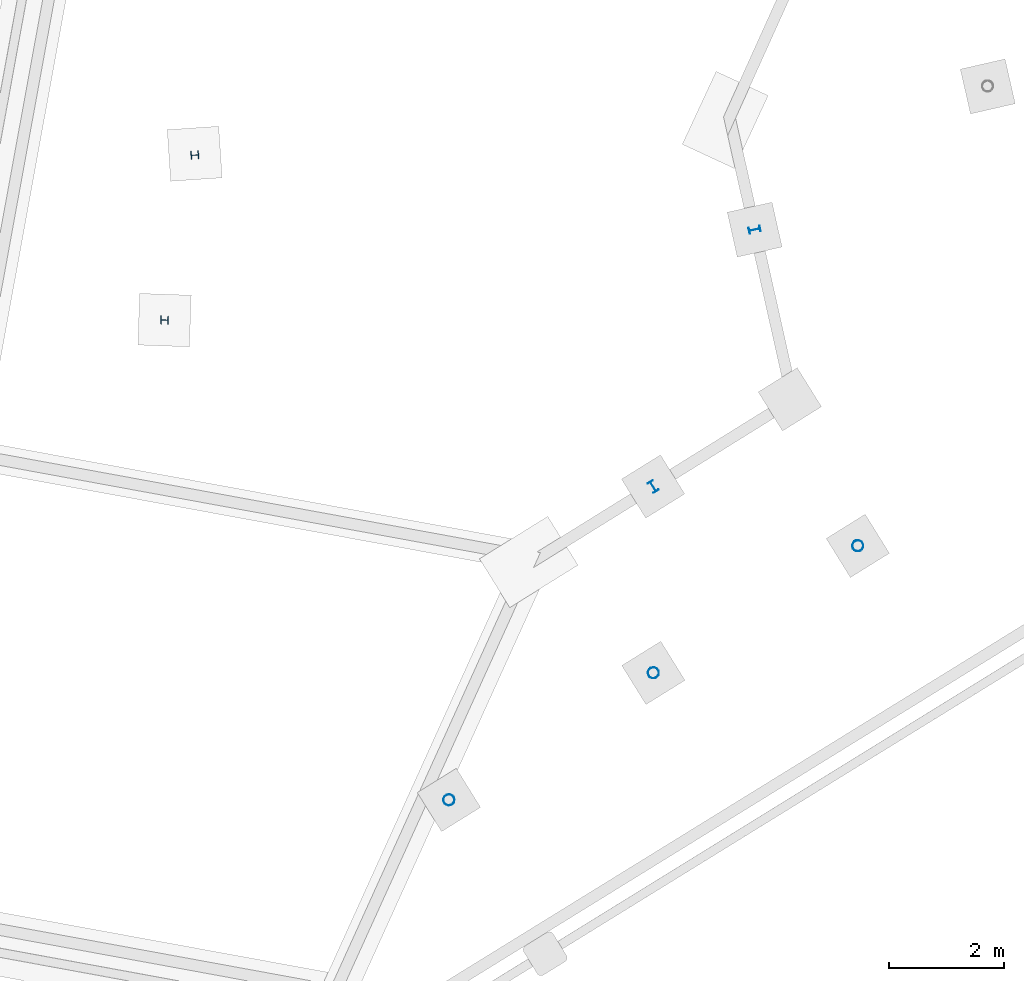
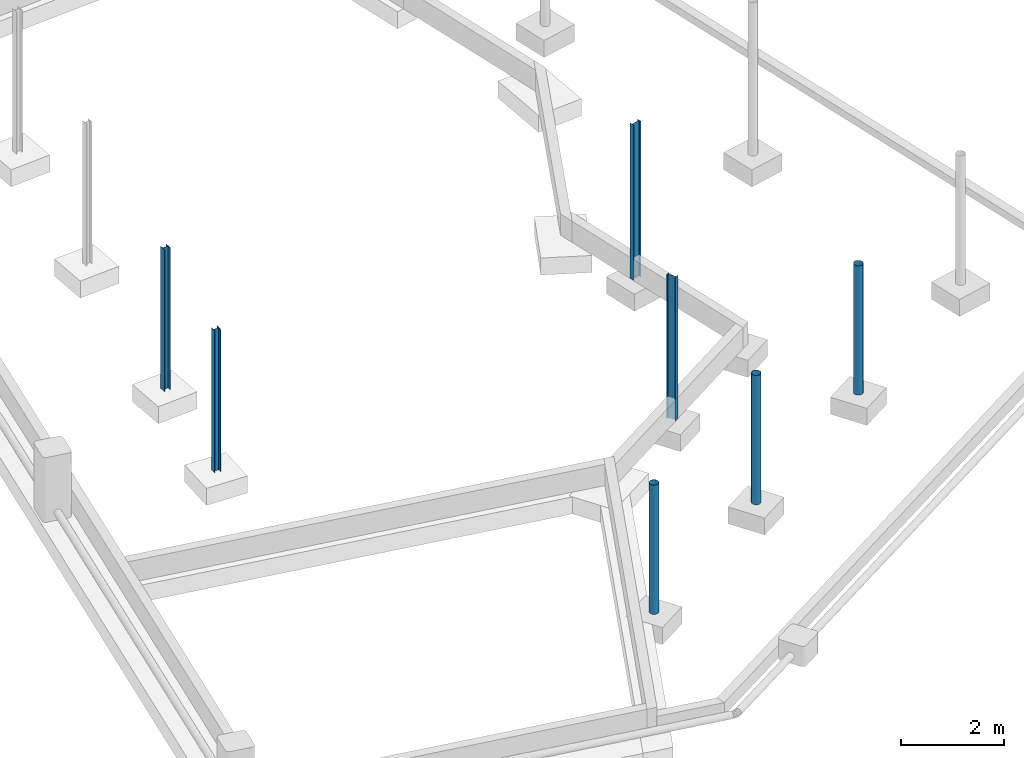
# One storey, part 2 of 17: 7 columns.
"""IFC2X3 building model written with IfcOpenShell, lengths in centimetres."""

from ifc_helpers import new_model, entity, si_unit, converted_unit, derived_unit, direction, frame, frame_2d, origin, origin_2d_with_axis, place, context, subcontext, project, spatial, polyline, circle_curve, parameter, trimmed, segment, composite_curve, hollow_circle, i_section, outline, extrude, source, transform, mapped, material, type_object, type_shapes, element, save


model = new_model("IFC2X3")

# Units and contexts
model_context = context("Model", 3, precision=0.001, world=origin(), true_north=direction((6.12303176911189e-17, 1.0)))
body_context = subcontext(model_context, "Body", "Model", "MODEL_VIEW")
ifc_project = project(units=[si_unit("LENGTHUNIT", "METRE", prefix="CENTI"), si_unit("AREAUNIT", "SQUARE_METRE"), si_unit("VOLUMEUNIT", "CUBIC_METRE"), converted_unit("PLANEANGLEUNIT", "DEGREE", entity("IfcRatioMeasure", 0.0174532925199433), si_unit("PLANEANGLEUNIT", "RADIAN"), dimensions=[0, 0, 0, 0, 0, 0, 0]), si_unit("MASSUNIT", "GRAM", prefix="KILO"), derived_unit("MASSDENSITYUNIT", [(si_unit("MASSUNIT", "GRAM", prefix="KILO"), 1), (si_unit("LENGTHUNIT", "METRE"), -3)]), si_unit("TIMEUNIT", "SECOND"), si_unit("FREQUENCYUNIT", "HERTZ"), si_unit("THERMODYNAMICTEMPERATUREUNIT", "DEGREE_CELSIUS"), derived_unit("THERMALTRANSMITTANCEUNIT", [(si_unit("MASSUNIT", "GRAM", prefix="KILO"), 1), (si_unit("THERMODYNAMICTEMPERATUREUNIT", "KELVIN"), -1), (si_unit("TIMEUNIT", "SECOND"), -3)]), derived_unit("VOLUMETRICFLOWRATEUNIT", [(si_unit("LENGTHUNIT", "METRE"), 3), (si_unit("TIMEUNIT", "SECOND"), -1)]), si_unit("ELECTRICCURRENTUNIT", "AMPERE"), si_unit("ELECTRICVOLTAGEUNIT", "VOLT"), si_unit("POWERUNIT", "WATT"), si_unit("FORCEUNIT", "NEWTON", prefix="KILO"), si_unit("ILLUMINANCEUNIT", "LUX"), si_unit("LUMINOUSFLUXUNIT", "LUMEN"), si_unit("LUMINOUSINTENSITYUNIT", "CANDELA"), derived_unit("USERDEFINED", [(si_unit("MASSUNIT", "GRAM", prefix="KILO"), -1), (si_unit("LENGTHUNIT", "METRE"), -2), (si_unit("TIMEUNIT", "SECOND"), 3), (si_unit("LUMINOUSFLUXUNIT", "LUMEN"), 1)]), derived_unit("LINEARVELOCITYUNIT", [(si_unit("LENGTHUNIT", "METRE"), 1), (si_unit("TIMEUNIT", "SECOND"), -1)]), si_unit("PRESSUREUNIT", "PASCAL"), derived_unit("USERDEFINED", [(si_unit("LENGTHUNIT", "METRE"), -2), (si_unit("MASSUNIT", "GRAM", prefix="KILO"), 1), (si_unit("TIMEUNIT", "SECOND"), -2)])], contexts=[model_context])

# Site, building, storey
site_placement = place(None, frame((2611.71187422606, 13650.4058644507, 0.0), z_axis=(0.0, 0.0, 1.0), x_axis=(0.0673222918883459, -0.997731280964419, 0.0)))
site = spatial("IfcSite", under=ifc_project, at=site_placement, Name="Surface", CompositionType="ELEMENT")
building_placement = place(site_placement, origin())
building = spatial("IfcBuilding", under=site, at=building_placement, CompositionType="ELEMENT")
storey_placement = place(building_placement, frame((0.0, 0.0, 86950.0)))
storey = spatial("IfcBuildingStorey", under=building, at=storey_placement, Name="-1 Soubassement", CompositionType="ELEMENT", Elevation=86950.0)

# Columns
ifc_material = material(Name="Acier structurel - S235")
column_type_1 = type_object("IfcColumnType", Name="Poteau rond 193.7x4 mm", PredefinedType="COLUMN")
shared_shape_1 = source(origin(), body_context, "Body", "SweptSolid", [
    extrude(hollow_circle(Radius=9.685, WallThickness=0.399999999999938, at=frame_2d((-7.14015928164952e-16, -4.16500599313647e-14), x_axis=(1.0, 0.0))), frame((0.0, 0.0, 86950.0)), (0.0, 0.0, 1.0), 304.803782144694),
])
type_shapes(column_type_1, [shared_shape_1])
column_1_placement = place(storey_placement, frame((4497.56424284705, 1166.99466678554, -86950.0), z_axis=(0.0, 0.0, 1.0), x_axis=(0.882947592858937, 0.469471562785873, 0.0)))
element("IfcColumn", 1, at=column_1_placement, inside=storey, type_object=column_type_1, material=ifc_material, Name="Poteau RO (EN 10219-2):Poteau rond 193.7x4 mm", ObjectType="Poteau RO (EN 10219-2):Poteau rond 193.7x4 mm", context=body_context, shape_type="MappedRepresentation", body=[
    mapped(shared_shape_1, transform((0.0, 0.0, 0.0), scale=1.0)),
])
column_type_2 = type_object("IfcColumnType", Name="Poteau rond 193.7x4 mm", PredefinedType="COLUMN")
shared_shape_2 = source(origin(), body_context, "Body", "SweptSolid", [
    extrude(hollow_circle(Radius=9.685, WallThickness=0.399999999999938, at=frame_2d((-7.14015928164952e-16, -4.16500599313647e-14), x_axis=(1.0, 0.0))), frame((0.0, 0.0, 86950.0)), (0.0, 0.0, 1.0), 304.848300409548),
])
type_shapes(column_type_2, [shared_shape_2])
column_2_placement = place(storey_placement, frame((4694.27081837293, 797.043404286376, -86950.0), z_axis=(0.0, 0.0, 1.0), x_axis=(0.882947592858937, 0.469471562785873, 0.0)))
element("IfcColumn", 2, at=column_2_placement, inside=storey, type_object=column_type_2, material=ifc_material, Name="Poteau RO (EN 10219-2):Poteau rond 193.7x4 mm", ObjectType="Poteau RO (EN 10219-2):Poteau rond 193.7x4 mm", context=body_context, shape_type="MappedRepresentation", body=[
    mapped(shared_shape_2, transform((0.0, 0.0, 0.0), scale=1.0)),
])
column_type_3 = type_object("IfcColumnType", Name="Poteau rond 193.7x4 mm", PredefinedType="COLUMN")
shared_shape_3 = source(origin(), body_context, "Body", "SweptSolid", [
    extrude(hollow_circle(Radius=9.685, WallThickness=0.399999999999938, at=frame_2d((-7.14015928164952e-16, -4.16500599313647e-14), x_axis=(1.0, 0.0))), frame((0.0, 0.0, 86950.0)), (0.0, 0.0, 1.0), 304.892818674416),
])
type_shapes(column_type_3, [shared_shape_3])
column_3_placement = place(storey_placement, frame((4890.9773938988, 427.092141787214, -86950.0), z_axis=(0.0, 0.0, 1.0), x_axis=(0.882947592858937, 0.469471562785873, 0.0)))
element("IfcColumn", 3, at=column_3_placement, inside=storey, type_object=column_type_3, material=ifc_material, Name="Poteau RO (EN 10219-2):Poteau rond 193.7x4 mm", ObjectType="Poteau RO (EN 10219-2):Poteau rond 193.7x4 mm", context=body_context, shape_type="MappedRepresentation", body=[
    mapped(shared_shape_3, transform((0.0, 0.0, 0.0), scale=1.0)),
])
column_type_4 = type_object("IfcColumnType", Name="HE140A", PredefinedType="COLUMN")
shared_shape_4 = source(origin(), body_context, "Body", "SweptSolid", [
    extrude(outline(composite_curve([segment(polyline([(5.8, -7.0), (6.65, -7.0)]), True, "CONTINUOUS"), segment(polyline([(6.65, -7.0), (6.65, 7.0)]), True, "CONTINUOUS"), segment(polyline([(6.65, 7.0), (5.8, 7.0)]), True, "CONTINUOUS"), segment(polyline([(5.8, 7.0), (5.8, 1.475)]), True, "CONTINUOUS"), segment(trimmed(circle_curve(frame_2d((4.6, 1.475), x_axis=(1.0, 0.0)), 1.2), [parameter(270.0)], [parameter(0.0)], True, "PARAMETER"), False, "CONTINUOUS"), segment(polyline([(4.6, 0.275000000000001), (-4.6, 0.275000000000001)]), True, "CONTINUOUS"), segment(trimmed(circle_curve(frame_2d((-4.6, 1.475), x_axis=(0.0, -1.0)), 1.2), [parameter(270.0)], [parameter(0.0)], True, "PARAMETER"), False, "CONTINUOUS"), segment(polyline([(-5.8, 1.475), (-5.8, 7.0)]), True, "CONTINUOUS"), segment(polyline([(-5.8, 7.0), (-6.65, 7.0)]), True, "CONTINUOUS"), segment(polyline([(-6.65, 7.0), (-6.65, -7.0)]), True, "CONTINUOUS"), segment(polyline([(-6.65, -7.0), (-5.8, -7.0)]), True, "CONTINUOUS"), segment(polyline([(-5.8, -7.0), (-5.8, -1.475)]), True, "CONTINUOUS"), segment(trimmed(circle_curve(frame_2d((-4.6, -1.475), x_axis=(-1.0, 0.0)), 1.2), [parameter(269.999999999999)], [parameter(0.0)], True, "PARAMETER"), False, "CONTINUOUS"), segment(polyline([(-4.6, -0.274999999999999), (4.6, -0.274999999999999)]), True, "CONTINUOUS"), segment(trimmed(circle_curve(frame_2d((4.6, -1.475), x_axis=(0.0, 1.0)), 1.2), [parameter(270.0)], [parameter(0.0)], True, "PARAMETER"), False, "CONTINUOUS"), segment(polyline([(5.8, -1.475), (5.8, -7.0)]), True, "CONTINUOUS")], self_intersect=False)), frame((0.0, 0.0, 86950.0), z_axis=(0.0, 0.0, 1.0), x_axis=(0.0, -1.0, 0.0)), (0.0, 0.0, 1.0), 334.99999999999),
])
type_shapes(column_type_4, [shared_shape_4])
column_4_placement = place(storey_placement, frame((3741.47284050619, 61.3184408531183, -86950.0)))
element("IfcColumn", 4, at=column_4_placement, inside=storey, type_object=column_type_4, material=ifc_material, Name="H-Poutrelles-Poteau:HE140A", ObjectType="H-Poutrelles-Poteau:HE140A", context=body_context, shape_type="MappedRepresentation", body=[
    mapped(shared_shape_4, transform((0.0, 0.0, 0.0), scale=1.0)),
])
column_5_placement = place(storey_placement, frame((4024.32309652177, -10.5978709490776, -86950.0), z_axis=(0.0, 0.0, 1.0), x_axis=(0.99473320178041, -0.102498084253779, 0.0)))
element("IfcColumn", 5, at=column_5_placement, inside=storey, type_object=column_type_4, material=ifc_material, Name="H-Poutrelles-Poteau:HE140A", ObjectType="H-Poutrelles-Poteau:HE140A", context=body_context, shape_type="MappedRepresentation", body=[
    mapped(shared_shape_4, transform((0.0, 0.0, 0.0), scale=1.0)),
])
column_type_5 = type_object("IfcColumnType", Name="IPE200", PredefinedType="COLUMN")
shared_shape_5 = source(origin(), body_context, "Body", "SweptSolid", [
    extrude(i_section(OverallWidth=10.0, OverallDepth=20.0000000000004, WebThickness=0.559999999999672, FlangeThickness=0.850000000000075, FilletRadius=1.19999999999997, at=origin_2d_with_axis()), frame((4370.57935281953, 818.349487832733, 86950.0), z_axis=(0.0, 0.0, 1.0), x_axis=(-0.469471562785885, 0.88294759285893, 0.0)), (0.0, 0.0, 1.0), 338.39911034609),
])
type_shapes(column_type_5, [shared_shape_5])
column_6_placement = place(storey_placement, frame((0.0, 0.0, -86950.0)))
element("IfcColumn", 6, at=column_6_placement, inside=storey, type_object=column_type_5, material=ifc_material, Name="Poteau IPE:IPE200", ObjectType="Poteau IPE:IPE200", context=body_context, shape_type="MappedRepresentation", body=[
    mapped(shared_shape_5, transform((0.0, 0.0, 0.0), scale=1.0)),
])
column_type_6 = type_object("IfcColumnType", Name="IPE200", PredefinedType="COLUMN")
shared_shape_6 = source(origin(), body_context, "Body", "SweptSolid", [
    extrude(outline(composite_curve([segment(polyline([(9.14999999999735, -5.0), (10.0, -5.0)]), True, "CONTINUOUS"), segment(polyline([(10.0, -5.0), (10.0, 5.0)]), True, "CONTINUOUS"), segment(polyline([(10.0, 5.0), (9.15000000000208, 5.0)]), True, "CONTINUOUS"), segment(polyline([(9.15000000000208, 5.0), (9.1500000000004, 1.47999999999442)]), True, "CONTINUOUS"), segment(trimmed(circle_curve(frame_2d((7.95000000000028, 1.47999999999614), x_axis=(1.0, 0.0)), 1.20000000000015), [parameter(270.000000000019)], [parameter(0.0)], True, "PARAMETER"), False, "CONTINUOUS"), segment(polyline([(7.94999999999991, 0.279999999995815), (-7.95000000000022, 0.280000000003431)]), True, "CONTINUOUS"), segment(trimmed(circle_curve(frame_2d((-7.94999999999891, 1.48000000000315), x_axis=(0.0, -1.0)), 1.20000000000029), [parameter(270.00000000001)], [parameter(0.0)], True, "PARAMETER"), False, "CONTINUOUS"), segment(polyline([(-9.14999999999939, 1.48000000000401), (-9.14999999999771, 5.0)]), True, "CONTINUOUS"), segment(polyline([(-9.14999999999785, 5.0), (-10.0, 5.0)]), True, "CONTINUOUS"), segment(polyline([(-10.0, 5.0), (-10.0, -5.0)]), True, "CONTINUOUS"), segment(polyline([(-10.0, -5.0), (-9.15000000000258, -5.0)]), True, "CONTINUOUS"), segment(polyline([(-9.15000000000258, -5.0), (-9.1500000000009, -1.47999999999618)]), True, "CONTINUOUS"), segment(trimmed(circle_curve(frame_2d((-7.95000000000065, -1.47999999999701), x_axis=(-1.0, 0.0)), 1.20000000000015), [parameter(270.000000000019)], [parameter(0.0)], True, "PARAMETER"), False, "CONTINUOUS"), segment(polyline([(-7.9500000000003, -0.279999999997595), (7.94999999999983, -0.280000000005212)]), True, "CONTINUOUS"), segment(trimmed(circle_curve(frame_2d((7.94999999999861, -1.48000000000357), x_axis=(0.0, 1.0)), 1.20000000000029), [parameter(270.00000000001)], [parameter(0.0)], True, "PARAMETER"), False, "CONTINUOUS"), segment(polyline([(9.14999999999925, -1.48000000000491), (9.14999999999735, -5.0)]), True, "CONTINUOUS")], self_intersect=False)), frame((3936.34646456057, 1024.83753198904, 86950.0), z_axis=(0.0, 0.0, 1.0), x_axis=(-0.152335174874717, 0.988328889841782, 0.0)), (0.0, 0.0, 1.0), 366.577817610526),
])
type_shapes(column_type_6, [shared_shape_6])
column_7_placement = place(storey_placement, frame((0.0, 0.0, -86950.0)))
element("IfcColumn", 7, at=column_7_placement, inside=storey, type_object=column_type_6, material=ifc_material, Name="Poteau IPE:IPE200", ObjectType="Poteau IPE:IPE200", context=body_context, shape_type="MappedRepresentation", body=[
    mapped(shared_shape_6, transform((0.0, 0.0, 0.0), scale=1.0)),
])

save(model, "model.ifc")
